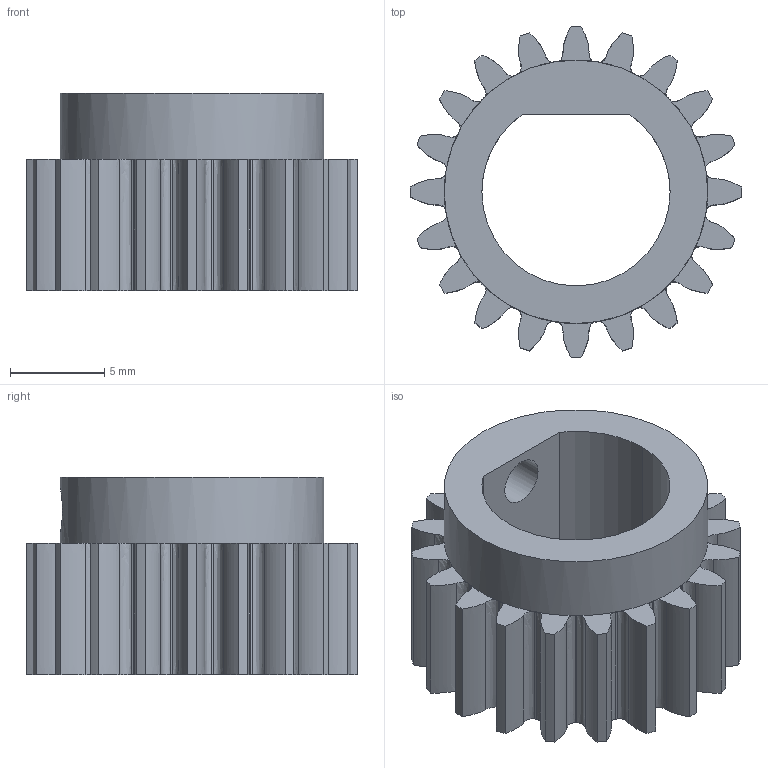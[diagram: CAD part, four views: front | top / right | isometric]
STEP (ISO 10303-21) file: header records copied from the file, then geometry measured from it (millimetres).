
FILE_DESCRIPTION(('Open CASCADE Model'),'2;1');
FILE_NAME('03_Gear1_z20_m0.8','2026-10-20T19:44:35',('Author'),( 'Open CASCADE'),'Open CASCADE STEP processor 8.0','build123d', 'Unknown');
FILE_SCHEMA(('AUTOMOTIVE_DESIGN { 1 0 10303 214 1 1 1 1 }'));
Length unit declared in the file: millimetre
Products named in the file (2): 03_Gear1_z20_m0.8
Assembly tree (1 placements, depth 2):
  03_Gear1_z20_m0.8
    03_Gear1_z20_m0.8
Bounding box: 17.6 x 17.6 x 10.5 mm (x, y, z)
Volume: 1110.5 mm3; surface area: 1427.9 mm2
Topology: 1 solids, 1 shells, 172 faces, 510 edges, 340 vertices
Faces by surface type: extrusion 80, plane 46, cylinder 46
Full cylindrical faces by diameter (mm): 2.5 x1, 14 x1
Entity records: 22150 total; most frequent: CARTESIAN_POINT 12981, DIRECTION 1322, ORIENTED_EDGE 1020, PCURVE 1020, DEFINITIONAL_REPRESENTATION 1020, VECTOR 769, LINE 689, B_SPLINE_CURVE_WITH_KNOTS 659
